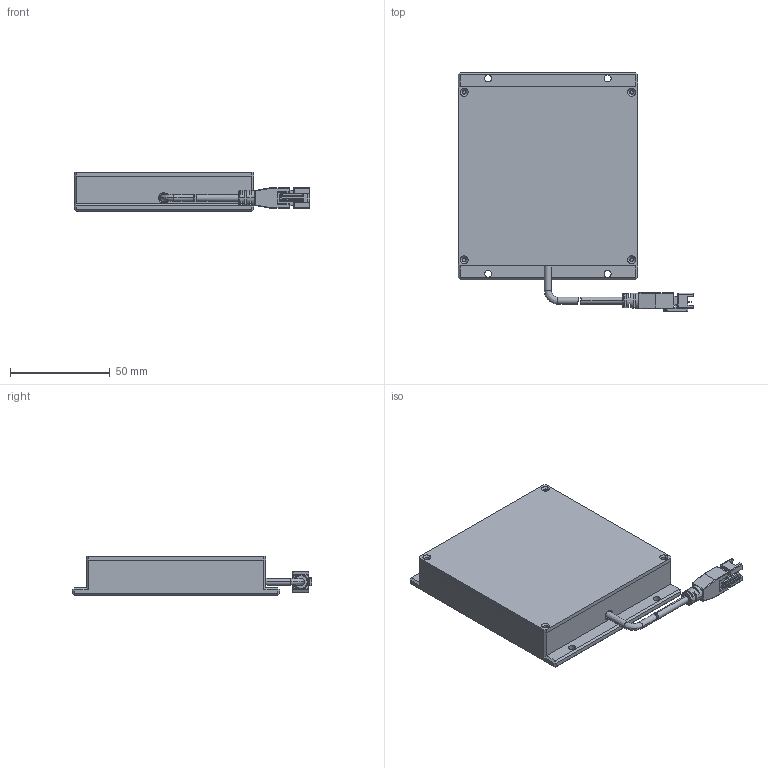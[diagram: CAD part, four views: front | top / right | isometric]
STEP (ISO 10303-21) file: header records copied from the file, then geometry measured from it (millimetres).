
FILE_DESCRIPTION (( 'STEP AP203' ), '1' );
FILE_NAME ('CRT-FLD8080-¼òÒ×3DÍ¼.STEP', '2021-11-24T01:20:49', ( 'Admin' ), ( '' ), 'SwSTEP 2.0', 'SolidWorks 2018', '' );
FILE_SCHEMA (( 'CONFIG_CONTROL_DESIGN' ));
Length unit declared in the file: millimetre
Products named in the file (1): CRT-FLD8080-潠眢3D芞
Bounding box: 118.23 x 119.95 x 20 mm (x, y, z)
Surface area: 29820.9 mm2 (no closed solid volume)
Topology: 0 solids, 4 shells, 262 faces, 731 edges, 463 vertices
Faces by surface type: plane 155, cylinder 77, bspline 16, cone 12, torus 2
Entity records: 8823 total; most frequent: CARTESIAN_POINT 2133, DIRECTION 1366, ORIENTED_EDGE 1329, EDGE_CURVE 725, VECTOR 478, LINE 478, VERTEX_POINT 463, AXIS2_PLACEMENT_3D 444
